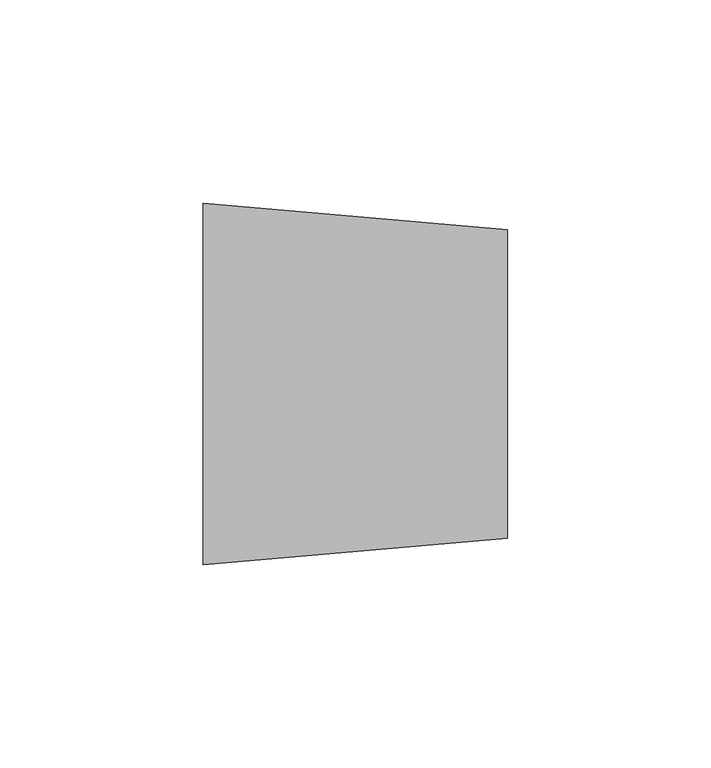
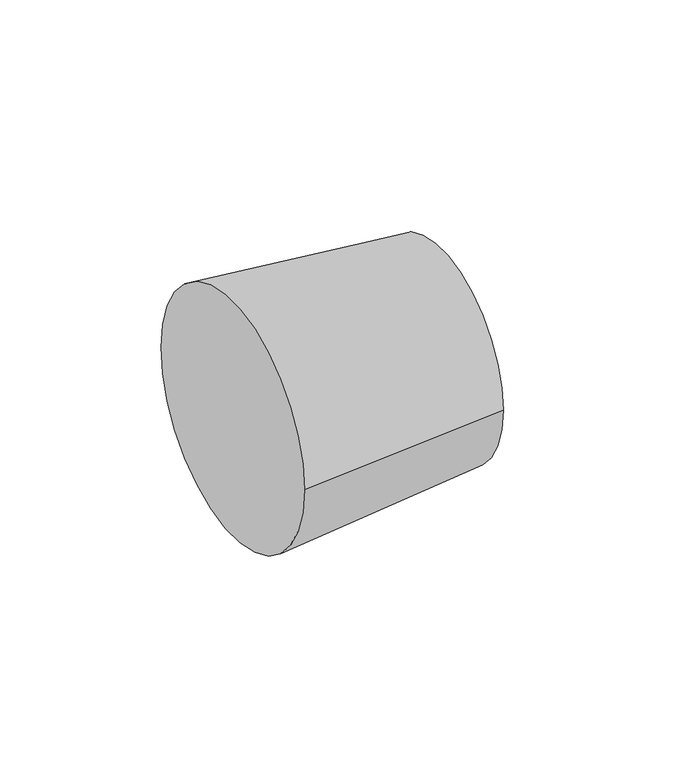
"""IFC4 building model written with IfcOpenShell, lengths in millimetres: pipe fitting geometry, ADSK_ДетальСтальнаяСварная_Переход_ГОСТ17378-2001 : Исполнение 2."""

from ifc_helpers import new_model, si_unit, frame, origin, place, context, project, spatial, polyline, circle_curve, source, transform, mapped, element, save
from ifc_brep_helpers import plane_surface, revolved_surface, advanced_brep


def pipe_fitting_aaa1e46b(model_context):
    return source(origin(), model_context, "Body", "AdvancedBrep", [
        advanced_brep(
        [(75.0, -38.0, 0.0), (75.0, 38.0, 0.0), (0.0, -44.5, 0.0), (0.0, 44.5, 0.0)],
        [
            (0, 1, circle_curve(frame((75.0, 0.0, 0.0), z_axis=(1.0, 0.0, 0.0), x_axis=(0.0, -1.0, 0.0)), 38.0)),
            (1, 0, circle_curve(frame((75.0, 0.0, 0.0), z_axis=(1.0, 0.0, 0.0), x_axis=(0.0, 1.0, 0.0)), 38.0)),
            (2, 3, circle_curve(frame((0.0, 0.0, 0.0), z_axis=(-1.0, 0.0, 0.0), x_axis=(0.0, 1.0, 0.0)), 44.5)),
            (3, 2, circle_curve(frame((0.0, 0.0, 0.0), z_axis=(-1.0, 0.0, 0.0), x_axis=(0.0, -1.0, 0.0)), 44.5)),
            (3, 1),
            (0, 2),
        ],
        [
            plane_surface(frame((75.0, 0.0, 0.0), z_axis=(1.0, 0.0, 0.0), x_axis=(0.0, 0.0, -1.0))),
            plane_surface(frame((0.0, 0.0, 0.0), z_axis=(-1.0, 0.0, 0.0), x_axis=(0.0, 0.0, -1.0))),
            revolved_surface(polyline([(75.0, -38.00000000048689, 0.0), (0.0, -44.5, 0.0)]), (513.4615385, 0.0, 0.0), (-1.0, 0.0, 0.0)),
            revolved_surface(polyline([(75.0, 38.00000000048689, 0.0), (0.0, 44.5, 0.0)]), (513.4615385, 0.0, 0.0), (-1.0, 0.0, 0.0)),
        ],
        [
            (0, [[1, 2]]),
            (1, [[3, 4]]),
            (2, [[-4, 5, -1, 6]]),
            (3, [[-3, -6, -2, -5]]),
        ],
    ),
    ])


if __name__ == "__main__":
    model = new_model("IFC4")
    model_context = context("Model", 3, world=origin())
    ifc_project = project(units=[si_unit("LENGTHUNIT", "METRE", prefix="MILLI")], contexts=[model_context])
    site = spatial("IfcSite", under=ifc_project)
    building = spatial("IfcBuilding", under=site)
    placement = place(None, origin())
    pipe_fitting_shape = pipe_fitting_aaa1e46b(model_context)
    element("IfcPipeFitting", 1, ObjectType="ADSK_ДетальСтальнаяСварная_Переход_ГОСТ17378-2001 : Исполнение 2", at=placement, inside=building, context=model_context, shape_type="MappedRepresentation", body=[
        mapped(pipe_fitting_shape, transform((0.0, 0.0, 0.0), x_axis=(1.0, 0.0, 0.0), y_axis=(0.0, 1.0, 0.0), z_axis=(0.0, 0.0, 1.0))),
    ])
    save(model, "model.ifc")
